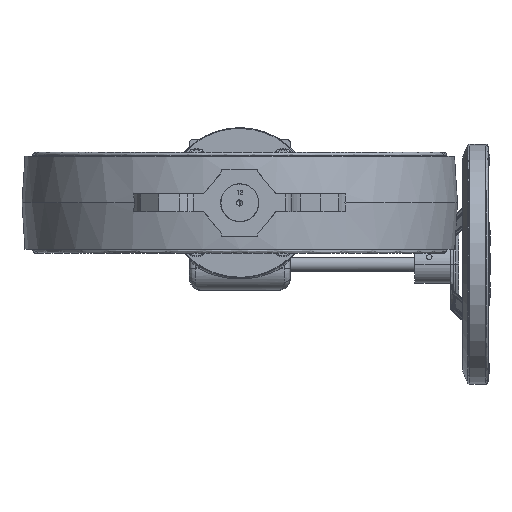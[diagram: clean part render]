
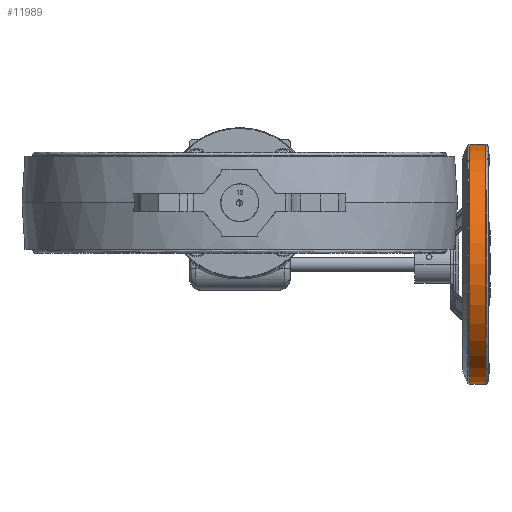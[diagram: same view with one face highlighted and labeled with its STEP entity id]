
A CAD part, front view. The second image highlights one B-rep face of the part: STEP entity #11989.
In plain terms, the highlighted cylindrical face has radius 100 mm (diameter 200 mm), a partial arc.
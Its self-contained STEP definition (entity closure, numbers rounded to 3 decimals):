
#1937 = EDGE_CURVE ( 'NONE', #6101, #149758, #37681, .T. ) ;
#3435 = CYLINDRICAL_SURFACE ( 'NONE', #43890, 100. ) ;
#6101 = VERTEX_POINT ( 'NONE', #75058 ) ;
#11989 = ADVANCED_FACE ( 'NONE', ( #129043 ), #3435, .T. ) ;
#12021 = AXIS2_PLACEMENT_3D ( 'NONE', #69928, #70469, #142756 ) ;
#19200 = EDGE_CURVE ( 'NONE', #22336, #6101, #64294, .T. ) ;
#21881 = CARTESIAN_POINT ( 'NONE',  ( 192.053, 335.753, 48.8 ) ) ;
#22336 = VERTEX_POINT ( 'NONE', #115371 ) ;
#32949 = DIRECTION ( 'NONE',  ( -1., 0., 0. ) ) ;
#33359 = ORIENTED_EDGE ( 'NONE', *, *, #116309, .T. ) ;
#37681 = CIRCLE ( 'NONE', #12021, 100. ) ;
#40202 = CARTESIAN_POINT ( 'NONE',  ( 186.346, 335.753, -51.2 ) ) ;
#40731 = DIRECTION ( 'NONE',  ( -1., 0., 0. ) ) ;
#43890 = AXIS2_PLACEMENT_3D ( 'NONE', #40202, #40731, #136069 ) ;
#48511 = CARTESIAN_POINT ( 'NONE',  ( 186.346, 335.753, -151.2 ) ) ;
#62102 = DIRECTION ( 'NONE',  ( -1., 0., 0. ) ) ;
#64294 = LINE ( 'NONE', #48511, #133597 ) ;
#69928 = CARTESIAN_POINT ( 'NONE',  ( 192.053, 335.753, -51.2 ) ) ;
#70469 = DIRECTION ( 'NONE',  ( -1., 0., 0. ) ) ;
#73840 = EDGE_CURVE ( 'NONE', #133046, #22336, #139087, .T. ) ;
#75058 = CARTESIAN_POINT ( 'NONE',  ( 192.053, 335.753, -151.2 ) ) ;
#80094 = CARTESIAN_POINT ( 'NONE',  ( 186.346, 335.753, 48.8 ) ) ;
#80553 = AXIS2_PLACEMENT_3D ( 'NONE', #91919, #140640, #150610 ) ;
#83445 = ORIENTED_EDGE ( 'NONE', *, *, #73840, .F. ) ;
#84815 = LINE ( 'NONE', #80094, #116636 ) ;
#90309 = EDGE_LOOP ( 'NONE', ( #83445, #33359, #117343, #154113 ) ) ;
#91919 = CARTESIAN_POINT ( 'NONE',  ( 205.346, 335.753, -51.2 ) ) ;
#115371 = CARTESIAN_POINT ( 'NONE',  ( 205.346, 335.753, -151.2 ) ) ;
#116309 = EDGE_CURVE ( 'NONE', #133046, #149758, #84815, .T. ) ;
#116636 = VECTOR ( 'NONE', #32949, 1000. ) ;
#117343 = ORIENTED_EDGE ( 'NONE', *, *, #1937, .F. ) ;
#129043 = FACE_OUTER_BOUND ( 'NONE', #90309, .T. ) ;
#133046 = VERTEX_POINT ( 'NONE', #146010 ) ;
#133597 = VECTOR ( 'NONE', #62102, 1000. ) ;
#136069 = DIRECTION ( 'NONE',  ( 0., 0., -1. ) ) ;
#139087 = CIRCLE ( 'NONE', #80553, 100. ) ;
#140640 = DIRECTION ( 'NONE',  ( 1., 0., 0. ) ) ;
#142756 = DIRECTION ( 'NONE',  ( 0., 0., -1. ) ) ;
#146010 = CARTESIAN_POINT ( 'NONE',  ( 205.346, 335.753, 48.8 ) ) ;
#149758 = VERTEX_POINT ( 'NONE', #21881 ) ;
#150610 = DIRECTION ( 'NONE',  ( 0., 0., -1. ) ) ;
#154113 = ORIENTED_EDGE ( 'NONE', *, *, #19200, .F. ) ;
